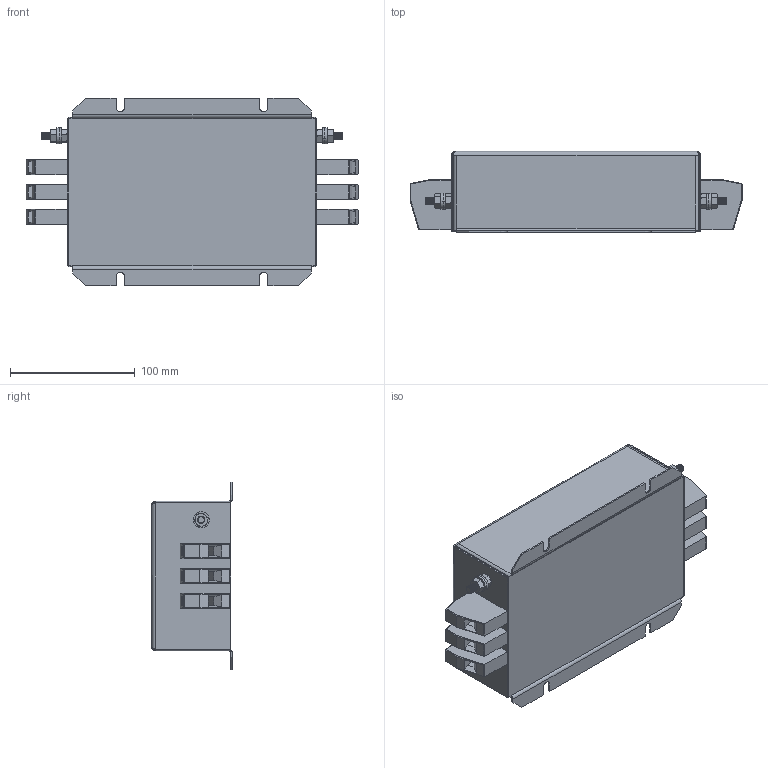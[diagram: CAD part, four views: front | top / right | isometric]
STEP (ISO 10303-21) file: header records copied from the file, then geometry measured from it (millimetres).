
FILE_DESCRIPTION (( 'STEP AP203' ), '1' );
FILE_NAME ('NF-64.STEP', '2022-07-21T11:31:24', ( '' ), ( '' ), 'SwSTEP 2.0', 'SolidWorks 2017', '' );
FILE_SCHEMA (( 'CONFIG_CONTROL_DESIGN' ));
Length unit declared in the file: millimetre
Products named in the file (7): NF-64 hank earth case; hex screw_am_B18.6.7M - M6 x 1.0 x 16 Indented HHMS --16S; NF-64; M6x16 Earth post; flat washer narrow_am_B18.22M - Plain washer, 6 mm, narrow; hex nut style 1_am_B18.2.4.1M - Hex nut, Style 1,  M6 x 1 --D-N; HDFK-16
Assembly tree (13 placements, depth 3):
  NF-64
    NF-64 hank earth case
    HDFK-16  x6
    M6x16 Earth post  x2
      flat washer narrow_am_B18.22M - Plain washer, 6 mm, narrow
      hex nut style 1_am_B18.2.4.1M - Hex nut, Style 1,  M6 x 1 --D-N
      hex screw_am_B18.6.7M - M6 x 1.0 x 16 Indented HHMS --16S
Bounding box: 266.01 x 64.8 x 150 mm (x, y, z)
Volume: 1613515.7 mm3; surface area: 164375.6 mm2
Topology: 15 solids, 15 shells, 870 faces, 2056 edges, 1256 vertices
Faces by surface type: plane 508, cone 192, cylinder 162, bspline 8
Entity records: 11919 total; most frequent: CARTESIAN_POINT 2499, DIRECTION 1808, ORIENTED_EDGE 1744, EDGE_CURVE 872, AXIS2_PLACEMENT_3D 639, VERTEX_POINT 538, LINE 530, VECTOR 530
